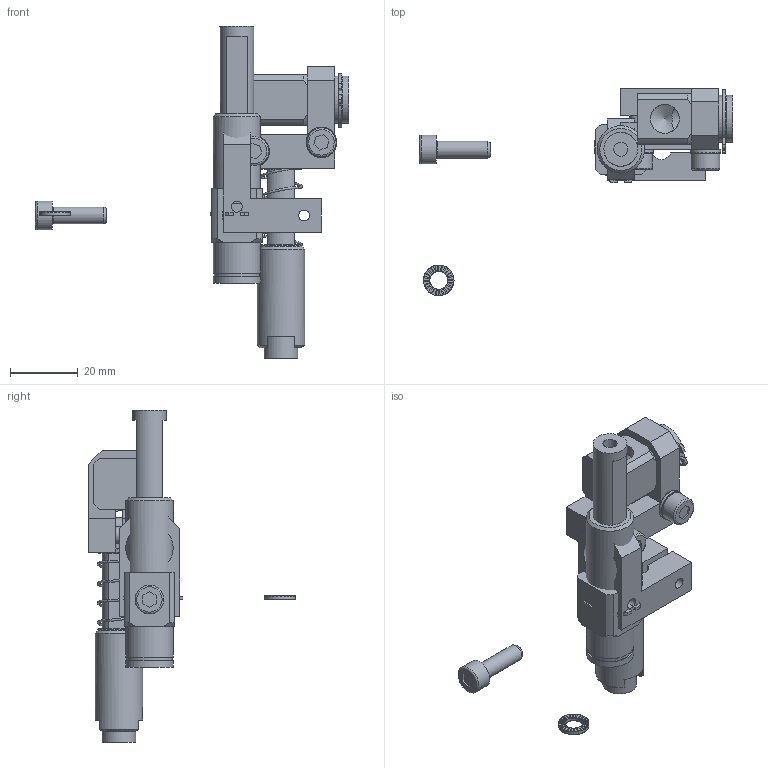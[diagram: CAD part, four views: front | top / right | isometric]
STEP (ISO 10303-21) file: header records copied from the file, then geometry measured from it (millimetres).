
FILE_DESCRIPTION( ( 'STEP AP214' ), '1' );
FILE_NAME( 'C:/Users/Segreteria/Desktop/CA.GGS141815.stp', '2014-07-02T08:11:54', ( ' ' ), ( ' ' ), 'XStep 1.0', ' ', ' ' );
FILE_SCHEMA( ( 'CONFIG_CONTROL_DESIGN) ( )' ) );
Length unit declared in the file: metre
Products named in the file (13): Assem1; 05-01-001-07; GGS-01-02; GGS-02-02; A-Ela  14; V-tcei M  5 x 16; molla12x25; R.5.SCH; 05.01.001.03.14
Bounding box: 92.5 x 61.14 x 98.11 mm (x, y, z)
Volume: 32163 mm3; surface area: 26465.8 mm2
Topology: 22 solids, 25 shells, 852 faces, 2399 edges, 1596 vertices
Faces by surface type: plane 728, cylinder 70, torus 28, cone 26
Full cylindrical faces by diameter (mm): 1.7 x4, 3.242 x4, 4.2 x6, 5 x4, 5.3 x3, 6.2 x2, 7 x2, 8.5 x4, 8.566 x4, 9 x3, 10 x4, 13.4 x2, 14 x6
Entity records: 10648 total; most frequent: CARTESIAN_POINT 1930, DIRECTION 1806, ORIENTED_EDGE 1686, EDGE_CURVE 843, AXIS2_PLACEMENT_3D 639, VERTEX_POINT 583, LINE 528, VECTOR 528
